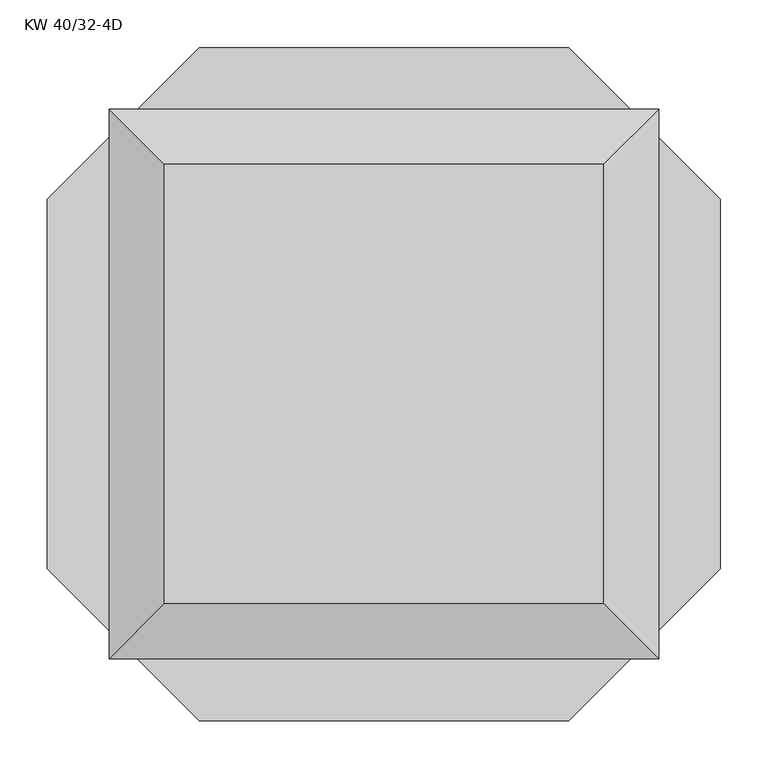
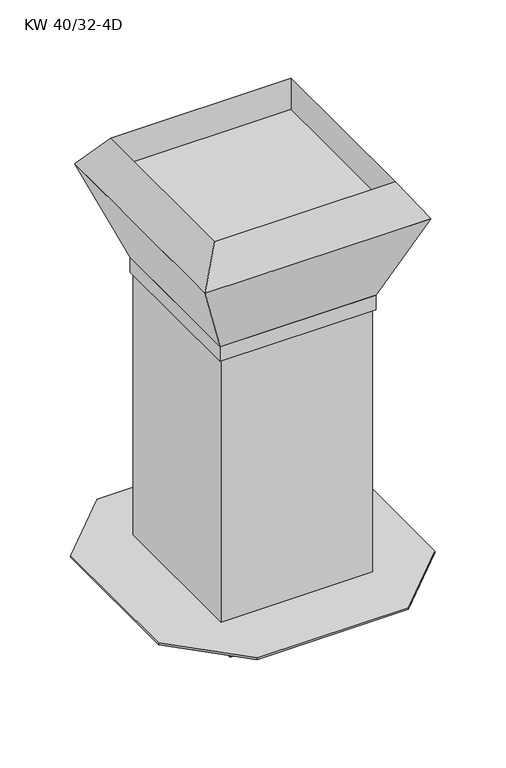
"""IFC4 building model written with IfcOpenShell, lengths in millimetres: proxy geometry, KORF_Вентилятор_Вытяжной_Крышный_KW : KW 40/32-4D."""

from ifc_helpers import new_model, si_unit, frame, origin, place, context, project, spatial, polyline, outline, extrude, faceted_brep, source, transform, mapped, element, save


def kw_40_32_4d_eafc15b3(model_context):
    return source(origin(), model_context, "Body", "SolidModel", [
        faceted_brep([(140.0, 164.0, -1.0), (140.0, 140.0, -1.0), (-140.0, 140.0, -1.0), (-140.0, 164.0, -1.0), (140.0, -140.0, -1.0), (140.0, -164.0, -1.0), (-140.0, -164.0, -1.0), (-140.0, -140.0, -1.0), (-140.0, 164.0, 0.0), (140.0, 164.0, 0.0), (-140.0, 140.0, 0.0), (140.0, 140.0, 0.0), (-140.0, -164.0, 0.0), (-140.0, -140.0, 0.0), (140.0, -164.0, 0.0), (140.0, -140.0, 0.0), (-164.0, 140.0, 0.0), (-164.0, -140.0, 0.0), (164.0, -140.0, 0.0), (164.0, 140.0, 0.0), (139.0, 139.0, 0.0), (139.0, -139.0, 0.0), (-139.0, -139.0, 0.0), (-139.0, 139.0, 0.0), (-164.0, 140.0, -1.0), (-164.0, -140.0, -1.0), (164.0, -140.0, -1.0), (164.0, 140.0, -1.0), (140.0, -140.0, -143.0), (-140.0, -140.0, -143.0), (-140.0, 140.0, -143.0), (140.0, 140.0, -143.0), (139.0, 139.0, -143.0), (-139.0, 139.0, -143.0), (-139.0, -139.0, -143.0), (139.0, -139.0, -143.0)], [[[0, 1, 2, 3]], [[4, 5, 6, 7]], [[0, 3, 8, 9]], [[3, 2, 10, 8]], [[1, 0, 9, 11]], [[7, 6, 12, 13]], [[6, 5, 14, 12]], [[5, 4, 15, 14]], [[16, 17, 13, 12, 14, 15, 18, 19, 11, 9, 8, 10], [20, 21, 22, 23]], [[24, 2, 7, 25]], [[26, 4, 1, 27]], [[17, 16, 24, 25]], [[13, 17, 25, 7]], [[16, 10, 2, 24]], [[19, 18, 26, 27]], [[11, 19, 27, 1]], [[18, 15, 4, 26]], [[28, 29, 30, 31], [32, 33, 34, 35]], [[28, 31, 1, 4]], [[31, 30, 2, 1]], [[30, 29, 7, 2]], [[29, 28, 4, 7]], [[21, 20, 32, 35]], [[22, 21, 35, 34]], [[23, 22, 34, 33]], [[20, 23, 33, 32]]]),
        faceted_brep([(195.0, 195.0, 757.0), (-195.0, 195.0, 757.0), (-195.0, -195.0, 757.0), (195.0, -195.0, 757.0), (195.0, 355.0, 0.0), (355.0, 195.0, 0.0), (355.0, -195.0, 0.0), (195.0, -355.0, 0.0), (-195.0, -355.0, 0.0), (-355.0, -195.0, 0.0), (-355.0, 195.0, 0.0), (-195.0, 355.0, 0.0), (195.0, 195.0, 5.0), (-195.0, 195.0, 5.0), (-195.0, -195.0, 5.0), (195.0, -195.0, 5.0), (195.0, 355.0, 5.0), (-195.0, 355.0, 5.0), (-355.0, 195.0, 5.0), (-355.0, -195.0, 5.0), (-195.0, -355.0, 5.0), (195.0, -355.0, 5.0), (355.0, -195.0, 5.0), (355.0, 195.0, 5.0)], [[[0, 1, 2, 3]], [[4, 5, 6, 7, 8, 9, 10, 11]], [[1, 0, 12, 13]], [[2, 1, 13, 14]], [[3, 2, 14, 15]], [[0, 3, 15, 12]], [[16, 17, 18, 19, 20, 21, 22, 23], [13, 12, 15, 14]], [[17, 16, 4, 11]], [[18, 17, 11, 10]], [[19, 18, 10, 9]], [[20, 19, 9, 8]], [[21, 20, 8, 7]], [[22, 21, 7, 6]], [[23, 22, 6, 5]], [[16, 23, 5, 4]]]),
        faceted_brep([(290.0, 290.0, 987.75), (290.0, -290.0, 987.75), (-290.0, -290.0, 987.75), (-290.0, 290.0, 987.75), (232.0, 232.0, 987.75), (-232.0, 232.0, 987.75), (-232.0, -232.0, 987.75), (232.0, -232.0, 987.75), (-232.0, 232.0, 1072.0), (232.0, 232.0, 1072.0), (-232.0, -232.0, 1072.0), (232.0, -232.0, 1072.0)], [[[0, 1, 2, 3], [4, 5, 6, 7]], [[0, 3, 8, 9]], [[3, 2, 10, 8]], [[2, 1, 11, 10]], [[1, 0, 9, 11]], [[8, 5, 4, 9]], [[5, 8, 10, 6]], [[6, 10, 11, 7]], [[9, 4, 7, 11]]]),
        faceted_brep([(290.0, 290.0, 987.75), (-290.0, 290.0, 987.75), (-290.0, -290.0, 987.75), (290.0, -290.0, 987.75), (200.0, 200.0, 757.0), (200.0, -200.0, 757.0), (-200.0, -200.0, 757.0), (-200.0, 200.0, 757.0)], [[[0, 1, 2, 3]], [[4, 5, 6, 7]], [[4, 7, 1, 0]], [[7, 6, 2, 1]], [[6, 5, 3, 2]], [[5, 4, 0, 3]]]),
        extrude(outline(polyline([(200.0, 200.0), (200.0, -200.0), (-200.0, -200.0), (-200.0, 200.0), (200.0, 200.0)]), holes=[polyline([(198.0, 198.0), (-198.0, 198.0), (-198.0, -198.0), (198.0, -198.0), (198.0, 198.0)])]), frame((0.0, 0.0, 717.0), z_axis=(0.0, 0.0, 1.0), x_axis=(1.0, 0.0, 0.0)), (0.0, 0.0, 1.0), 40.0),
    ])


if __name__ == "__main__":
    model = new_model("IFC4")
    model_context = context("Model", 3, world=origin())
    ifc_project = project(units=[si_unit("LENGTHUNIT", "METRE", prefix="MILLI")], contexts=[model_context])
    site = spatial("IfcSite", under=ifc_project)
    building = spatial("IfcBuilding", under=site)
    placement = place(None, origin())
    kw_40_32_4d_shape = kw_40_32_4d_eafc15b3(model_context)
    element("IfcBuildingElementProxy", 1, Name="KORF_Вентилятор_Вытяжной_Крышный_KW : KW 40/32-4D", ObjectType="KORF_Вентилятор_Вытяжной_Крышный_KW : KW 40/32-4D", at=placement, inside=building, context=model_context, shape_type="MappedRepresentation", body=[
        mapped(kw_40_32_4d_shape, transform((0.0, 0.0, 0.0), x_axis=(1.0, 0.0, 0.0), y_axis=(0.0, 1.0, 0.0), z_axis=(0.0, 0.0, 1.0))),
    ])
    save(model, "model.ifc")
